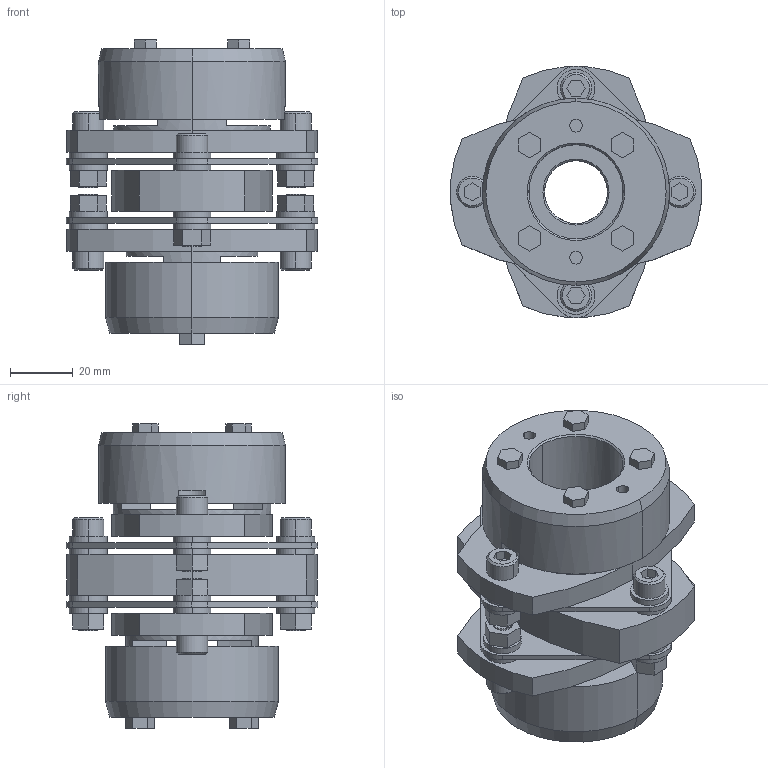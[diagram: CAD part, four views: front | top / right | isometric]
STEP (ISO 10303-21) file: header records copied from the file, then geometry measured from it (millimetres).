
FILE_DESCRIPTION((''),'2;1');
FILE_NAME('LCD-80T7-20×30.stp','2011-09-15T13:42:09',(''),(''),'AutoCAD STEP 2000i','AutoCAD 2000i',', , ');
FILE_SCHEMA(('CONFIG_CONTROL_DESIGN'));
Length unit declared in the file: millimetre
Products named in the file (11): LCD-80T7-19×30; 忣兜1; LC80T7-T030; LC80T7-T028; LC80T7-T024; LC80T7-T022; LC80T7-T019-1; LC80T7-T019; LC80T7-T017-1; LC80T7-T017; LCD80-ITA
Assembly tree (10 placements, depth 2):
  LCD-80T7-19×30
    忣兜1
    LC80T7-T030
    LC80T7-T028
    LC80T7-T024
    LC80T7-T022
    LC80T7-T019-1
    LC80T7-T019
    LC80T7-T017-1
    LC80T7-T017
    LCD80-ITA
Bounding box: 80 x 79.95 x 96.8 mm (x, y, z)
Volume: 188258.2 mm3; surface area: 58589.5 mm2
Topology: 1 solids, 1 shells, 324 faces, 792 edges, 520 vertices
Faces by surface type: plane 178, cylinder 122, cone 24
Entity records: 9859 total; most frequent: DIRECTION 1750, CARTESIAN_POINT 1647, ORIENTED_EDGE 1584, EDGE_CURVE 792, AXIS2_PLACEMENT_3D 623, VERTEX_POINT 520, VECTOR 504, LINE 504
